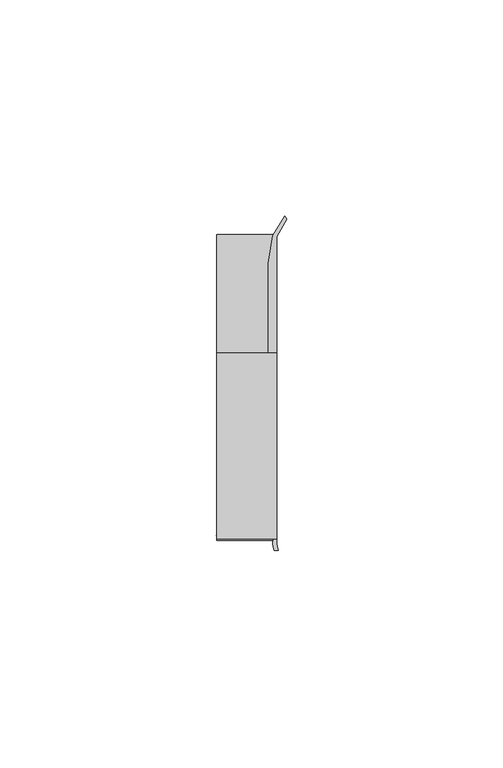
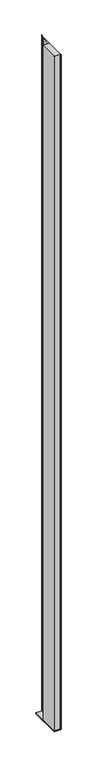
"""IFC4 building model written with IfcOpenShell, lengths in millimetres: furniture geometry."""

from ifc_helpers import new_model, si_unit, point, frame, frame_2d, origin, place, context, project, spatial, polyline, circle_curve, trimmed, segment, composite_curve, outline, extrude, source, transform, mapped, element, save


def furniture_ef070875(model_context):
    return source(origin(), model_context, "Body", "SweptSolid", [
        extrude(outline(polyline([(31.9660873, 18.9594777), (31.9660873, -24.0995273), (18.0754623, -24.0995273), (18.0754623, 18.9594777), (31.9660873, 18.9594777)])), frame((0.0, 0.0, 487.8043624), z_axis=(0.0, 0.0, 1.0), x_axis=(1.0, 0.0, 0.0)), (0.0, 0.0, 1.0), 1614.0456376),
        extrude(outline(polyline([(18.0754623, -24.0995273), (18.0754623, 46.6824219), (31.9660873, 46.6824219), (31.9660873, -24.0995273), (18.0754623, -24.0995273)])), frame((0.0, 0.0, 485.27208), z_axis=(0.0, 0.0, 1.0), x_axis=(1.0, 0.0, 0.0)), (0.0, 0.0, 1.0), 2.5322824),
        extrude(outline(composite_curve([segment(polyline([(33.8779838, 50.6802202), (34.2963358, 49.8958113), (31.9660873, 45.8886719), (31.9660873, -25.0252959)]), True, "CONTINUOUS"), segment(trimmed(circle_curve(frame_2d((36.5370848, -24.9306779)), 4.5719767), [point((31.9660873, -25.0252959))], [point((32.3362111, -26.7350146))], True, "CARTESIAN"), True, "CONTINUOUS"), segment(polyline([(32.3362111, -26.7350146), (31.3598061, -26.7312177)]), True, "CONTINUOUS"), segment(trimmed(circle_curve(frame_2d((38.1067431, -24.7767162)), 7.0243316), [point((31.3598061, -26.7312177))], [point((31.0897622, -25.0979846))], False, "CARTESIAN"), True, "CONTINUOUS"), segment(polyline([(31.0897622, -25.0979846), (31.204088, -24.0995273), (18.7580885, -24.0995273), (17.9586029, -23.2998418), (31.2224462, -23.2998418), (31.2224462, 18.9594777), (29.9783377, 18.9594777), (29.9783377, 39.6814262), (31.1100649, 46.0995711), (33.8779838, 50.6802202)]), True, "CONTINUOUS")], self_intersect=False)), frame((0.0, 0.0, 487.8043624), z_axis=(0.0, 0.0, 1.0), x_axis=(1.0, 0.0, 0.0)), (0.0, 0.0, 1.0), 1614.0456376),
    ])


if __name__ == "__main__":
    model = new_model("IFC4")
    model_context = context("Model", 3, world=origin())
    ifc_project = project(units=[si_unit("LENGTHUNIT", "METRE", prefix="MILLI")], contexts=[model_context])
    site = spatial("IfcSite", under=ifc_project)
    building = spatial("IfcBuilding", under=site)
    placement = place(None, origin())
    furniture_shape = furniture_ef070875(model_context)
    element("IfcFurniture", 1, ObjectType="HermanMiller_Compass_TW400_Close-OutSide : 89\"H Right No Cutouts Use W/64H Sloped Cab Top", at=placement, inside=building, context=model_context, shape_type="MappedRepresentation", body=[
        mapped(furniture_shape, transform((0.0, 0.0, 0.0), x_axis=(1.0, 0.0, 0.0), y_axis=(0.0, 1.0, 0.0), z_axis=(0.0, 0.0, 1.0))),
    ])
    save(model, "model.ifc")
